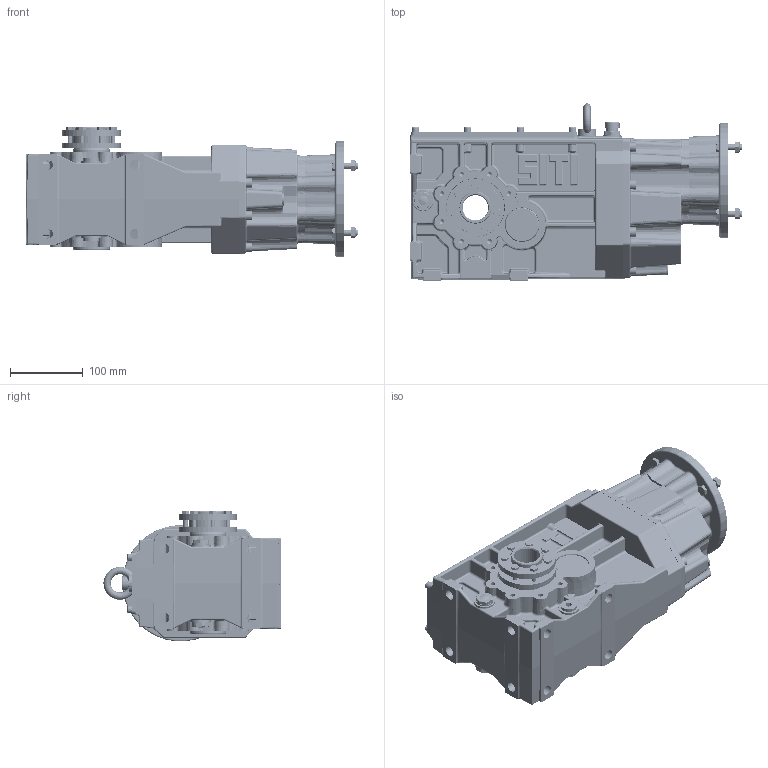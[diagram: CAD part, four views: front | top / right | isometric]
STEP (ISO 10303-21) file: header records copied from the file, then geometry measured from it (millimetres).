
FILE_DESCRIPTION((''),'2;1');
FILE_NAME('O:\Figurini\Figurini BH\3D\MBHGC 63 CC-B GR 71 B5.stp','2013-04-24T11:19:17',('d.iannaccio'),(''),'Autodesk Inventor 2012','Autodesk Inventor 2012','');
FILE_SCHEMA(('AUTOMOTIVE_DESIGN { 1 0 10303 214 1 1 1 1 }'));
Length unit declared in the file: millimetre
Products named in the file (1): MBHGC_63 CC-B PAM 71 B5
Bounding box: 456.5 x 243.48 x 179.7 mm (x, y, z)
Volume: 3605048.9 mm3; surface area: 907937.9 mm2
Topology: 3 solids, 62 shells, 4212 faces, 10021 edges, 6003 vertices
Faces by surface type: cylinder 1247, plane 1242, bspline 714, cone 461, torus 420, sphere 128
Full cylindrical faces by diameter (mm): 4.917 x9, 6 x31, 6.5 x14, 6.647 x30, 7 x8, 8 x42, 8.376 x1, 8.5 x2, 8.88 x7, 9 x20, 10 x16, 10.39 x1, 11.445 x1, 12 x1, 13 x16, 13.8 x1, 14 x16, 14.95 x5, 15.95 x1, 16 x6, 16.05 x1, 17 x1, 18 x1, 19.5 x1, 25 x1, 28 x6, 35 x2, 36 x1, 37.5 x1, 39 x2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
Entity records: 142261 total; most frequent: CARTESIAN_POINT 47996, DIRECTION 18614, ORIENTED_EDGE 18154, EDGE_CURVE 9078, AXIS2_PLACEMENT_3D 7791, VERTEX_POINT 5752, EDGE_LOOP 5101, FACE_OUTER_BOUND 4212
